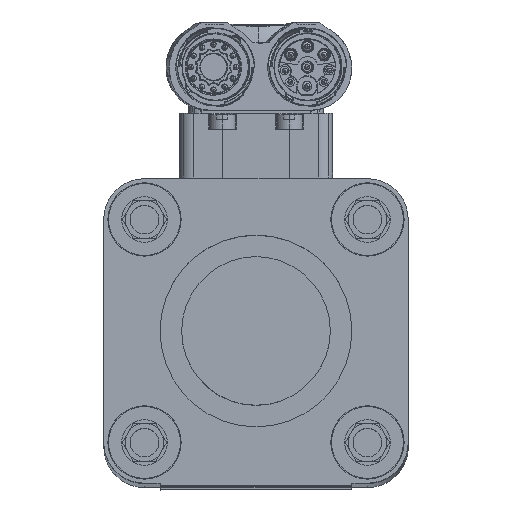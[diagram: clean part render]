
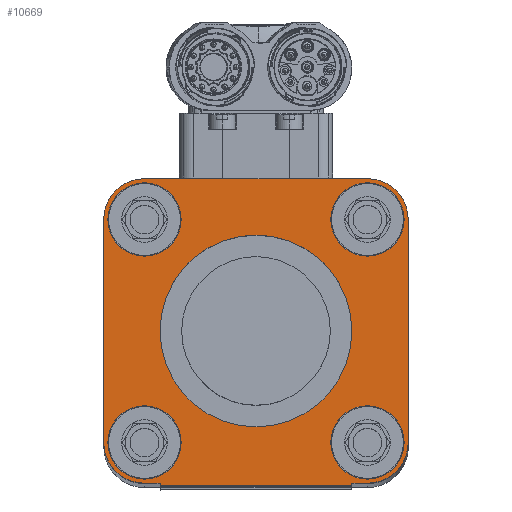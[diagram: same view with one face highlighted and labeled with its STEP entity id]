
A CAD part, left-side view. The second image highlights one B-rep face of the part: STEP entity #10669.
In plain terms, the highlighted planar face has unit normal (-1, 0, 0.002) as drawn and (0, 0, 1) by its records, which use the part's own axes.
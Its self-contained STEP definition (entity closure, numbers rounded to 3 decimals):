
#10669=ADVANCED_FACE('10:20',(#19979,#19980,#19981,#19982,#19983,#19984),#19985,.T.);
#19979=FACE_BOUND('',#50281,.T.);
#19980=FACE_BOUND('',#50282,.T.);
#19981=FACE_BOUND('',#50283,.T.);
#19982=FACE_BOUND('',#50284,.T.);
#19983=FACE_BOUND('',#50285,.T.);
#19984=FACE_OUTER_BOUND('',#50286,.T.);
#19985=PLANE('',#50287);
#50281=EDGE_LOOP('',(#70120,#70121));
#50282=EDGE_LOOP('',(#70122,#70123));
#50283=EDGE_LOOP('',(#70124,#70125));
#50284=EDGE_LOOP('',(#70126,#70127));
#50285=EDGE_LOOP('',(#70128,#70129));
#50286=EDGE_LOOP('',(#70130,#70131,#70132,#70133,#70134,#70135,#70136,#70137,#70138,#70139,#70140,#70141,#70142,#70143,#70144,#70145));
#50287=AXIS2_PLACEMENT_3D('',#70146,#70147,#70148);
#70120=ORIENTED_EDGE('',*,*,#74211,.F.);
#70121=ORIENTED_EDGE('',*,*,#82773,.F.);
#70122=ORIENTED_EDGE('',*,*,#77608,.F.);
#70123=ORIENTED_EDGE('',*,*,#83048,.F.);
#70124=ORIENTED_EDGE('',*,*,#76081,.F.);
#70125=ORIENTED_EDGE('',*,*,#79213,.F.);
#70126=ORIENTED_EDGE('',*,*,#80710,.F.);
#70127=ORIENTED_EDGE('',*,*,#81243,.F.);
#70128=ORIENTED_EDGE('',*,*,#82545,.F.);
#70129=ORIENTED_EDGE('',*,*,#80311,.F.);
#70130=ORIENTED_EDGE('',*,*,#71975,.F.);
#70131=ORIENTED_EDGE('',*,*,#78619,.F.);
#70132=ORIENTED_EDGE('',*,*,#81116,.F.);
#70133=ORIENTED_EDGE('',*,*,#79343,.F.);
#70134=ORIENTED_EDGE('',*,*,#83455,.F.);
#70135=ORIENTED_EDGE('',*,*,#82695,.F.);
#70136=ORIENTED_EDGE('',*,*,#72190,.F.);
#70137=ORIENTED_EDGE('',*,*,#75104,.F.);
#70138=ORIENTED_EDGE('',*,*,#73612,.F.);
#70139=ORIENTED_EDGE('',*,*,#78069,.F.);
#70140=ORIENTED_EDGE('',*,*,#78831,.F.);
#70141=ORIENTED_EDGE('',*,*,#72901,.F.);
#70142=ORIENTED_EDGE('',*,*,#75513,.F.);
#70143=ORIENTED_EDGE('',*,*,#78244,.F.);
#70144=ORIENTED_EDGE('',*,*,#82083,.F.);
#70145=ORIENTED_EDGE('',*,*,#76126,.F.);
#70146=CARTESIAN_POINT('',(0.0,0.0,34.0));
#70147=DIRECTION('',(0.0,0.0,1.0));
#70148=DIRECTION('',(1.0,0.0,0.0));
#71975=EDGE_CURVE('',#85092,#85088,#85094,.F.);
#72190=EDGE_CURVE('',#85483,#85479,#85485,.F.);
#72901=EDGE_CURVE('',#86710,#86712,#86713,.T.);
#73612=EDGE_CURVE('',#87946,#87948,#87949,.F.);
#74211=EDGE_CURVE('',#88959,#88955,#88961,.T.);
#75104=EDGE_CURVE('',#87948,#85483,#90525,.F.);
#75513=EDGE_CURVE('',#91219,#86710,#91221,.T.);
#76081=EDGE_CURVE('',#92180,#92178,#92182,.F.);
#76126=EDGE_CURVE('',#85088,#92252,#92253,.F.);
#77608=EDGE_CURVE('',#94786,#94784,#94788,.F.);
#78069=EDGE_CURVE('',#95559,#87946,#95561,.F.);
#78244=EDGE_CURVE('',#95857,#91219,#95859,.T.);
#78619=EDGE_CURVE('',#96488,#85092,#96490,.F.);
#78831=EDGE_CURVE('',#86712,#95559,#96842,.F.);
#79213=EDGE_CURVE('',#92178,#92180,#97481,.F.);
#79343=EDGE_CURVE('',#97694,#97692,#97696,.F.);
#80311=EDGE_CURVE('',#99337,#99339,#99340,.F.);
#80710=EDGE_CURVE('',#100023,#100019,#100025,.F.);
#81116=EDGE_CURVE('',#97692,#96488,#100721,.F.);
#81243=EDGE_CURVE('',#100019,#100023,#100931,.F.);
#82083=EDGE_CURVE('',#92252,#95857,#102349,.F.);
#82545=EDGE_CURVE('',#99339,#99337,#103136,.F.);
#82695=EDGE_CURVE('',#85479,#103389,#103390,.F.);
#82773=EDGE_CURVE('',#88955,#88959,#103523,.T.);
#83048=EDGE_CURVE('',#94784,#94786,#103989,.F.);
#83455=EDGE_CURVE('',#103389,#97694,#104687,.F.);
#85088=VERTEX_POINT('',#107542);
#85092=VERTEX_POINT('',#107547);
#85094=CIRCLE('',#107550,8.5);
#85479=VERTEX_POINT('',#108188);
#85483=VERTEX_POINT('',#108193);
#85485=CIRCLE('',#108196,8.5);
#86710=VERTEX_POINT('',#110410);
#86712=VERTEX_POINT('',#110413);
#86713=LINE('',#110414,#110415);
#87946=VERTEX_POINT('',#112585);
#87948=VERTEX_POINT('',#112588);
#87949=CIRCLE('',#112589,8.5);
#88955=VERTEX_POINT('',#114511);
#88959=VERTEX_POINT('',#114516);
#88961=CIRCLE('',#114519,20.0);
#90525=LINE('',#117274,#117275);
#91219=VERTEX_POINT('',#118447);
#91221=LINE('',#118450,#118451);
#92178=VERTEX_POINT('',#120193);
#92180=VERTEX_POINT('',#120196);
#92182=CIRCLE('',#120199,7.65);
#92252=VERTEX_POINT('',#120340);
#92253=CIRCLE('',#120341,8.5);
#94784=VERTEX_POINT('',#125216);
#94786=VERTEX_POINT('',#125219);
#94788=CIRCLE('',#125222,7.65);
#95559=VERTEX_POINT('',#126605);
#95561=CIRCLE('',#126608,8.5);
#95857=VERTEX_POINT('',#127159);
#95859=LINE('',#127162,#127163);
#96488=VERTEX_POINT('',#128416);
#96490=LINE('',#128419,#128420);
#96842=LINE('',#129068,#129069);
#97481=CIRCLE('',#130174,7.65);
#97692=VERTEX_POINT('',#130496);
#97694=VERTEX_POINT('',#130499);
#97696=CIRCLE('',#130502,8.5);
#99337=VERTEX_POINT('',#134174);
#99339=VERTEX_POINT('',#134177);
#99340=CIRCLE('',#134178,7.65);
#100019=VERTEX_POINT('',#135537);
#100023=VERTEX_POINT('',#135542);
#100025=CIRCLE('',#135545,7.65);
#100721=CIRCLE('',#136853,8.5);
#100931=CIRCLE('',#137404,7.65);
#102349=LINE('',#140176,#140177);
#103136=CIRCLE('',#141727,7.65);
#103389=VERTEX_POINT('',#142237);
#103390=CIRCLE('',#142238,8.5);
#103523=CIRCLE('',#142734,20.0);
#103989=CIRCLE('',#143750,7.65);
#104687=LINE('',#145231,#145232);
#107542=CARTESIAN_POINT('',(45.069,-42.647,34.0));
#107547=CARTESIAN_POINT('',(47.559,-36.636,34.0));
#107550=AXIS2_PLACEMENT_3D('',#148338,#148339,#148340);
#108188=CARTESIAN_POINT('',(-13.451,15.874,34.0));
#108193=CARTESIAN_POINT('',(-15.941,9.864,34.0));
#108196=AXIS2_PLACEMENT_3D('',#148693,#148694,#148695);
#110410=CARTESIAN_POINT('',(-4.191,-45.636,34.0));
#110413=CARTESIAN_POINT('',(-4.191,-45.136,34.0));
#110414=CARTESIAN_POINT('',(-4.191,-45.636,34.0));
#110415=VECTOR('',#149560,1.0);
#112585=CARTESIAN_POINT('',(-13.451,-42.647,34.0));
#112588=CARTESIAN_POINT('',(-15.941,-36.636,34.0));
#112589=AXIS2_PLACEMENT_3D('',#150336,#150337,#150338);
#114511=CARTESIAN_POINT('',(35.809,-13.386,34.0));
#114516=CARTESIAN_POINT('',(-4.191,-13.386,34.0));
#114519=AXIS2_PLACEMENT_3D('',#151002,#151003,#151004);
#117274=CARTESIAN_POINT('',(-15.941,-6.693,34.0));
#117275=VECTOR('',#152139,1.0);
#118447=CARTESIAN_POINT('',(35.809,-45.636,34.0));
#118450=CARTESIAN_POINT('',(35.809,-45.636,34.0));
#118451=VECTOR('',#152651,1.0);
#120193=CARTESIAN_POINT('',(0.209,-36.636,34.0));
#120196=CARTESIAN_POINT('',(-15.091,-36.636,34.0));
#120199=AXIS2_PLACEMENT_3D('',#153237,#153238,#153239);
#120340=CARTESIAN_POINT('',(39.059,-45.136,34.0));
#120341=AXIS2_PLACEMENT_3D('',#153275,#153276,#153277);
#125216=CARTESIAN_POINT('',(46.709,-36.636,34.0));
#125219=CARTESIAN_POINT('',(31.409,-36.636,34.0));
#125222=AXIS2_PLACEMENT_3D('',#154960,#154961,#154962);
#126605=CARTESIAN_POINT('',(-7.441,-45.136,34.0));
#126608=AXIS2_PLACEMENT_3D('',#155526,#155527,#155528);
#127159=CARTESIAN_POINT('',(35.809,-45.136,34.0));
#127162=CARTESIAN_POINT('',(35.809,-45.136,34.0));
#127163=VECTOR('',#155712,1.0);
#128416=CARTESIAN_POINT('',(47.559,9.864,34.0));
#128419=CARTESIAN_POINT('',(47.559,-6.693,34.0));
#128420=VECTOR('',#156147,1.0);
#129068=CARTESIAN_POINT('',(7.904,-45.136,34.0));
#129069=VECTOR('',#156409,1.0);
#130174=AXIS2_PLACEMENT_3D('',#156842,#156843,#156844);
#130496=CARTESIAN_POINT('',(45.069,15.874,34.0));
#130499=CARTESIAN_POINT('',(39.059,18.364,34.0));
#130502=AXIS2_PLACEMENT_3D('',#157006,#157007,#157008);
#134174=CARTESIAN_POINT('',(0.209,9.864,34.0));
#134177=CARTESIAN_POINT('',(-15.091,9.864,34.0));
#134178=AXIS2_PLACEMENT_3D('',#157985,#157986,#157987);
#135537=CARTESIAN_POINT('',(46.709,9.864,34.0));
#135542=CARTESIAN_POINT('',(31.409,9.864,34.0));
#135545=AXIS2_PLACEMENT_3D('',#158427,#158428,#158429);
#136853=AXIS2_PLACEMENT_3D('',#158808,#158809,#158810);
#137404=AXIS2_PLACEMENT_3D('',#158923,#158924,#158925);
#140176=CARTESIAN_POINT('',(7.904,-45.136,34.0));
#140177=VECTOR('',#159885,1.0);
#141727=AXIS2_PLACEMENT_3D('',#160378,#160379,#160380);
#142237=CARTESIAN_POINT('',(-7.441,18.364,34.0));
#142238=AXIS2_PLACEMENT_3D('',#160546,#160547,#160548);
#142734=AXIS2_PLACEMENT_3D('',#160616,#160617,#160618);
#143750=AXIS2_PLACEMENT_3D('',#160871,#160872,#160873);
#145231=CARTESIAN_POINT('',(7.904,18.364,34.0));
#145232=VECTOR('',#161337,1.0);
#148338=CARTESIAN_POINT('',(39.059,-36.636,34.0));
#148339=DIRECTION('',(0.0,0.0,1.0));
#148340=DIRECTION('',(0.707,-0.707,0.0));
#148693=CARTESIAN_POINT('',(-7.441,9.864,34.0));
#148694=DIRECTION('',(0.0,0.0,1.0));
#148695=DIRECTION('',(-0.707,0.707,0.0));
#149560=DIRECTION('',(0.0,1.0,0.0));
#150336=CARTESIAN_POINT('',(-7.441,-36.636,34.0));
#150337=DIRECTION('',(0.0,0.0,1.0));
#150338=DIRECTION('',(-0.707,-0.707,0.0));
#151002=CARTESIAN_POINT('',(15.809,-13.386,34.0));
#151003=DIRECTION('',(0.0,0.0,1.0));
#151004=DIRECTION('',(1.0,0.0,-0.0));
#152139=DIRECTION('',(0.0,-1.0,0.0));
#152651=DIRECTION('',(-1.0,0.0,0.0));
#153237=CARTESIAN_POINT('',(-7.441,-36.636,34.0));
#153238=DIRECTION('',(0.0,0.0,-1.0));
#153239=DIRECTION('',(1.0,0.0,0.0));
#153275=CARTESIAN_POINT('',(39.059,-36.636,34.0));
#153276=DIRECTION('',(0.0,0.0,1.0));
#153277=DIRECTION('',(0.707,-0.707,0.0));
#154960=CARTESIAN_POINT('',(39.059,-36.636,34.0));
#154961=DIRECTION('',(0.0,0.0,-1.0));
#154962=DIRECTION('',(1.0,0.0,0.0));
#155526=CARTESIAN_POINT('',(-7.441,-36.636,34.0));
#155527=DIRECTION('',(0.0,0.0,1.0));
#155528=DIRECTION('',(-0.707,-0.707,0.0));
#155712=DIRECTION('',(0.0,-1.0,0.0));
#156147=DIRECTION('',(-0.0,1.0,0.0));
#156409=DIRECTION('',(1.0,0.0,-0.0));
#156842=CARTESIAN_POINT('',(-7.441,-36.636,34.0));
#156843=DIRECTION('',(0.0,0.0,-1.0));
#156844=DIRECTION('',(1.0,0.0,0.0));
#157006=CARTESIAN_POINT('',(39.059,9.864,34.0));
#157007=DIRECTION('',(0.0,-0.0,1.0));
#157008=DIRECTION('',(0.707,0.707,0.0));
#157985=CARTESIAN_POINT('',(-7.441,9.864,34.0));
#157986=DIRECTION('',(0.0,0.0,-1.0));
#157987=DIRECTION('',(1.0,0.0,0.0));
#158427=CARTESIAN_POINT('',(39.059,9.864,34.0));
#158428=DIRECTION('',(0.0,0.0,-1.0));
#158429=DIRECTION('',(1.0,0.0,0.0));
#158808=CARTESIAN_POINT('',(39.059,9.864,34.0));
#158809=DIRECTION('',(0.0,-0.0,1.0));
#158810=DIRECTION('',(0.707,0.707,0.0));
#158923=CARTESIAN_POINT('',(39.059,9.864,34.0));
#158924=DIRECTION('',(0.0,0.0,-1.0));
#158925=DIRECTION('',(1.0,0.0,0.0));
#159885=DIRECTION('',(1.0,0.0,-0.0));
#160378=CARTESIAN_POINT('',(-7.441,9.864,34.0));
#160379=DIRECTION('',(0.0,0.0,-1.0));
#160380=DIRECTION('',(1.0,0.0,0.0));
#160546=CARTESIAN_POINT('',(-7.441,9.864,34.0));
#160547=DIRECTION('',(0.0,0.0,1.0));
#160548=DIRECTION('',(-0.707,0.707,0.0));
#160616=CARTESIAN_POINT('',(15.809,-13.386,34.0));
#160617=DIRECTION('',(0.0,0.0,1.0));
#160618=DIRECTION('',(1.0,0.0,-0.0));
#160871=CARTESIAN_POINT('',(39.059,-36.636,34.0));
#160872=DIRECTION('',(0.0,0.0,-1.0));
#160873=DIRECTION('',(1.0,0.0,0.0));
#161337=DIRECTION('',(-1.0,0.0,0.0));
